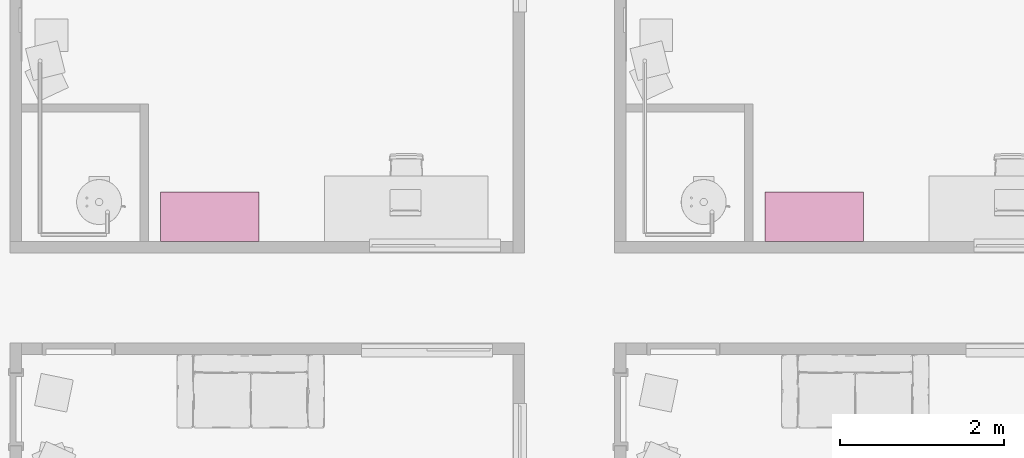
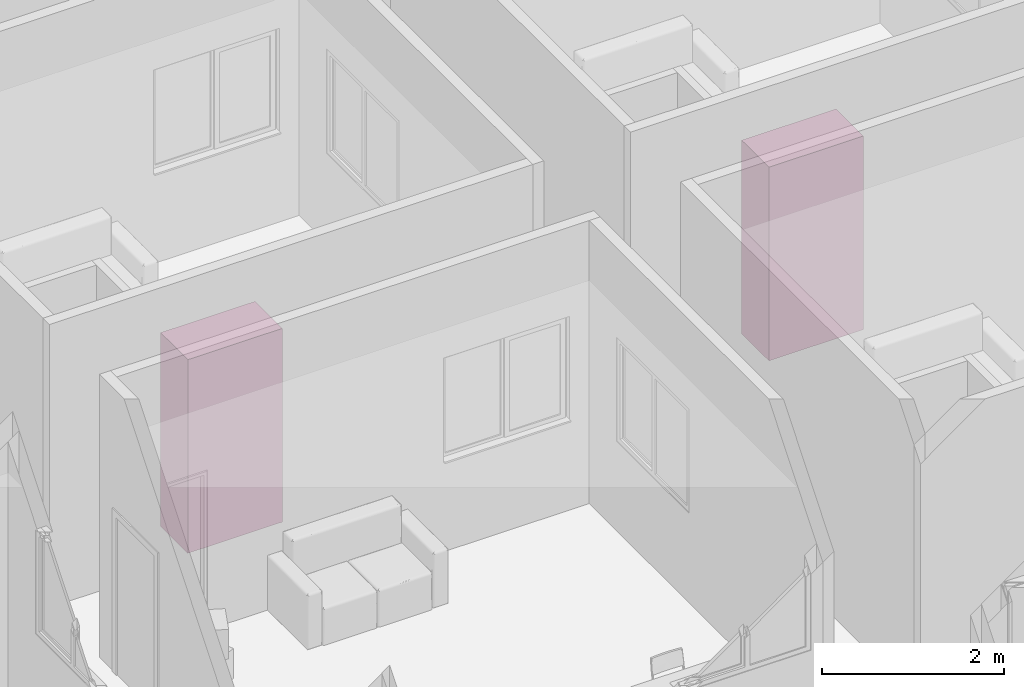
# One storey, part 69 of 72: 2 furniture elements.
"""IFC4 building model written with IfcOpenShell, lengths in centimetres."""

from ifc_helpers import new_model, entity, si_unit, converted_unit, derived_unit, direction, frame, origin, place, context, subcontext, project, spatial, indexed_curve, outline, extrude, source, transform, mapped, material, type_object, type_shapes, element, save


model = new_model("IFC4")

# Units and contexts
model_context = context("Model", 3, precision=0.001, world=origin(), true_north=direction((6.123233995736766e-17, 1.0)))
body_context = subcontext(model_context, "Body", "Model", "MODEL_VIEW")
ifc_project = project(units=[si_unit("LENGTHUNIT", "METRE", prefix="CENTI"), si_unit("AREAUNIT", "SQUARE_METRE"), si_unit("VOLUMEUNIT", "CUBIC_METRE"), derived_unit("THERMALTRANSMITTANCEUNIT", [(si_unit("MASSUNIT", "GRAM", prefix="KILO"), 1), (si_unit("THERMODYNAMICTEMPERATUREUNIT", "KELVIN"), -1), (si_unit("TIMEUNIT", "SECOND"), -3)]), converted_unit("PLANEANGLEUNIT", "DEGREE", entity("IfcPlaneAngleMeasure", 0.017453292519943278), si_unit("PLANEANGLEUNIT", "RADIAN"), dimensions=[0, 0, 0, 0, 0, 0, 0]), derived_unit("MASSDENSITYUNIT", [(si_unit("MASSUNIT", "GRAM", prefix="KILO"), 1), (si_unit("LENGTHUNIT", "METRE"), -3)]), derived_unit("VAPORPERMEABILITYUNIT", [(si_unit("LENGTHUNIT", "METRE"), -1), (si_unit("TIMEUNIT", "SECOND"), 1)]), derived_unit("USERDEFINED", [(si_unit("MASSUNIT", "GRAM", prefix="KILO"), 1), (si_unit("TIMEUNIT", "SECOND"), -3), (si_unit("LENGTHUNIT", "METRE"), 3), (si_unit("ELECTRICCURRENTUNIT", "AMPERE"), -2)]), derived_unit("SPECIFICHEATCAPACITYUNIT", [(si_unit("THERMODYNAMICTEMPERATUREUNIT", "KELVIN"), -1), (si_unit("LENGTHUNIT", "METRE"), 2), (si_unit("TIMEUNIT", "SECOND"), -2)]), derived_unit("THERMALCONDUCTANCEUNIT", [(si_unit("MASSUNIT", "GRAM", prefix="KILO"), 1), (si_unit("THERMODYNAMICTEMPERATUREUNIT", "KELVIN"), -1), (si_unit("TIMEUNIT", "SECOND"), -3), (si_unit("LENGTHUNIT", "METRE"), 1)]), si_unit("PRESSUREUNIT", "PASCAL"), derived_unit("MODULUSOFELASTICITYUNIT", [(si_unit("MASSUNIT", "GRAM", prefix="KILO"), 1), (si_unit("LENGTHUNIT", "METRE"), -1), (si_unit("TIMEUNIT", "SECOND"), -2)]), derived_unit("THERMALEXPANSIONCOEFFICIENTUNIT", [(si_unit("THERMODYNAMICTEMPERATUREUNIT", "KELVIN"), -1)])], contexts=[model_context])

# Site, building, storey, space
site_placement = place(None, origin())
site = spatial("IfcSite", under=ifc_project, at=site_placement, Name="Default", CompositionType="ELEMENT")
building_placement = place(site_placement, origin())
building = spatial("IfcBuilding", under=site, at=building_placement, Name="IDS Escape Game Building", CompositionType="ELEMENT")
storey_placement = place(building_placement, frame((0.0, 0.0, 800.0)))
storey = spatial("IfcBuildingStorey", under=building, at=storey_placement, Name="02_Second Floor", CompositionType="ELEMENT", Elevation=800.0)
space_1_placement = place(storey_placement, origin())
space_1 = spatial("IfcSpace", under=storey, at=space_1_placement, Name="97", CompositionType="ELEMENT", PredefinedType="NOTDEFINED")

# Furniture
ifc_material = material(Name="<Unnamed>")
furniture_type = type_object("IfcFurnitureType", Name="BPL_82.11_CA_UN_kast_gen_BERSnl:type 1", AssemblyPlace="NOTDEFINED", PredefinedType="NOTDEFINED", material=ifc_material)
shared_shape = source(origin(), body_context, "Body", "SweptSolid", [
    extrude(outline(indexed_curve([(-59.99999999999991, -29.999999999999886), (59.99999999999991, -29.999999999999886), (59.99999999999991, 29.999999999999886), (-59.99999999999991, 29.999999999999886), (-59.99999999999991, -29.999999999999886)], self_intersect=False)), frame((-60.0, -30.0, 0.0), z_axis=(0.0, 0.0, 1.0), x_axis=(-1.0, 0.0, 0.0)), (0.0, 0.0, 1.0), 260.0),
])
type_shapes(furniture_type, [shared_shape])
furniture_1_placement = place(space_1_placement, frame((3987.0, 1987.0, 0.0)))
element("IfcFurniture", 1, at=furniture_1_placement, inside=space_1, type_object=furniture_type, material=ifc_material, Name="BPL_82.11_CA_UN_kast_gen_BERSnl:type 1", ObjectType="BPL_82.11_CA_UN_kast_gen_BERSnl:type 1", PredefinedType="NOTDEFINED", context=body_context, shape_type="MappedRepresentation", body=[
    mapped(shared_shape, transform((0.0, 0.0, 0.0), scale=1.0)),
])

# Space
space_2_placement = place(storey_placement, origin())
space_2 = spatial("IfcSpace", under=storey, at=space_2_placement, Name="98", CompositionType="ELEMENT", PredefinedType="NOTDEFINED")

# Furniture
furniture_2_placement = place(space_2_placement, frame((4725.0, 1987.0, 0.0)))
element("IfcFurniture", 2, at=furniture_2_placement, inside=space_2, type_object=furniture_type, material=ifc_material, Name="BPL_82.11_CA_UN_kast_gen_BERSnl:type 1", ObjectType="BPL_82.11_CA_UN_kast_gen_BERSnl:type 1", PredefinedType="NOTDEFINED", context=body_context, shape_type="MappedRepresentation", body=[
    mapped(shared_shape, transform((0.0, 0.0, 0.0), scale=1.0)),
])

save(model, "model.ifc")
